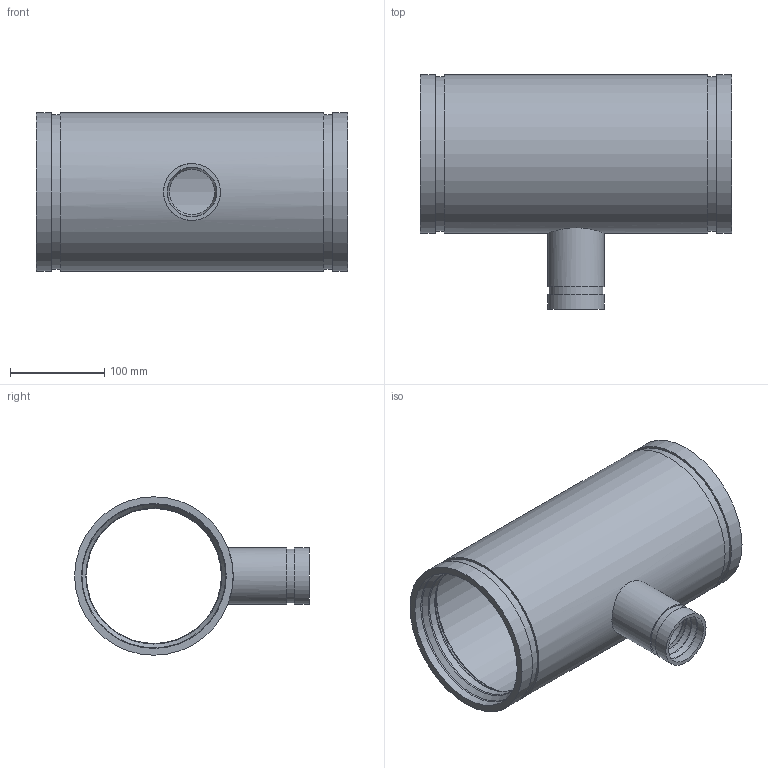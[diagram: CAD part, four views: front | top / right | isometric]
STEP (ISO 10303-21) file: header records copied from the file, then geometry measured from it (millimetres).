
FILE_DESCRIPTION(/* description */ ('VIC REDUCING TEE No 425H-SS','CAx-IF Rec.Pracs.---Representation and Presentation of Product Manufacturing Information (PMI)---4.0---2014-10-13'),/* implementation_level */ '2;1');
FILE_NAME(/* name */ 'C:\Users\kkamble\AppData\Roaming\Autodesk\ApplicationPlugins\Back Up\Victaulic_SS-OGS_Tee Reducing_Sched 40S_No 425H SS (OGS)\Victaulic_SS-OGS_Tee Reducing_Sched 40S_No 425H SS (OGS)_06.0x02.0 (150x50).stp',/* time_stamp */ '2020-08-27T17:20:00+06:00',/* author */ ('CORINNE GRAY'),/* organization */ ('Victaulic'),/* preprocessor_version */ 'ST-DEVELOPER v17.2',/* originating_system */ 'Autodesk Inventor 2019',/* authorisation */ '');
FILE_SCHEMA (('TECHNICAL_DATA_PACKAGING','AP242_MANAGED_MODEL_BASED_3D_ENGINEERING_MIM_LF { 1 0 10303 442 1 1 4 }'));
Length unit declared in the file: inch
Products named in the file (1): 425H SS-06.0x02.0
Bounding box: 330.2 x 249.24 x 168.28 mm (x, y, z)
Volume: 1318594.4 mm3; surface area: 374571.2 mm2
Topology: 1 solids, 1 shells, 43 faces, 134 edges, 100 vertices
Faces by surface type: cylinder 16, torus 12, plane 9, cone 6
Full cylindrical faces by diameter (mm): 48.006 x1, 52.578 x2, 57.15 x1, 60.325 x2, 143.383 x2, 153.67 x3, 163.957 x2, 168.275 x3
Entity records: 1919 total; most frequent: CARTESIAN_POINT 427, DIRECTION 352, ORIENTED_EDGE 268, AXIS2_PLACEMENT_3D 165, EDGE_CURVE 134, CIRCLE 108, VERTEX_POINT 100, EDGE_LOOP 54
